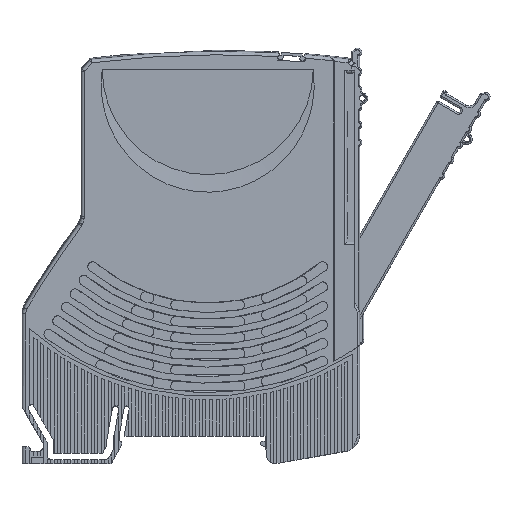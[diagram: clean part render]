
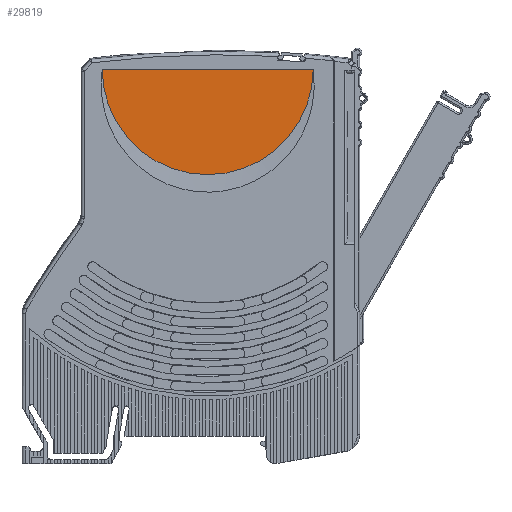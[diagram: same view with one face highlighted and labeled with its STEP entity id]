
A CAD part, top view. The second image highlights one B-rep face of the part: STEP entity #29819.
In plain terms, the highlighted planar face has unit normal (0, -0.018, 1).
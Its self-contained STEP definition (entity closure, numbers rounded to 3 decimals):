
#3397=DIRECTION('',(-1.,0.,0.));
#3398=VECTOR('',#3397,50.);
#3399=CARTESIAN_POINT('',(29.,87.,6.15));
#3400=LINE('',#3399,#3398);
#3841=CARTESIAN_POINT('',(4.,87.,6.15));
#3842=DIRECTION('',(0.,-0.017,1.));
#3843=DIRECTION('',(-1.,0.,0.));
#3844=AXIS2_PLACEMENT_3D('',#3841,#3842,#3843);
#21631=CARTESIAN_POINT('',(29.,87.,6.15));
#21632=CARTESIAN_POINT('',(-21.,87.,6.15));
#21633=VERTEX_POINT('',#21631);
#21634=VERTEX_POINT('',#21632);
#29810=CARTESIAN_POINT('',(4.,87.,6.15));
#29811=DIRECTION('',(0.,0.017,-1.));
#29812=DIRECTION('',(0.,-1.,-0.017));
#29813=AXIS2_PLACEMENT_3D('',#29810,#29811,#29812);
#29814=PLANE('',#29813);
#29815=ORIENTED_EDGE('',*,*,#29672,.F.);
#29816=ORIENTED_EDGE('',*,*,#29804,.F.);
#29817=EDGE_LOOP('',(#29815,#29816));
#29818=FACE_OUTER_BOUND('',#29817,.F.);
#3845=CIRCLE('',#3844,25.);
#29672=EDGE_CURVE('',#21633,#21634,#3400,.T.);
#29804=EDGE_CURVE('',#21634,#21633,#3845,.T.);
#29819=ADVANCED_FACE('',(#29818),#29814,.F.);
